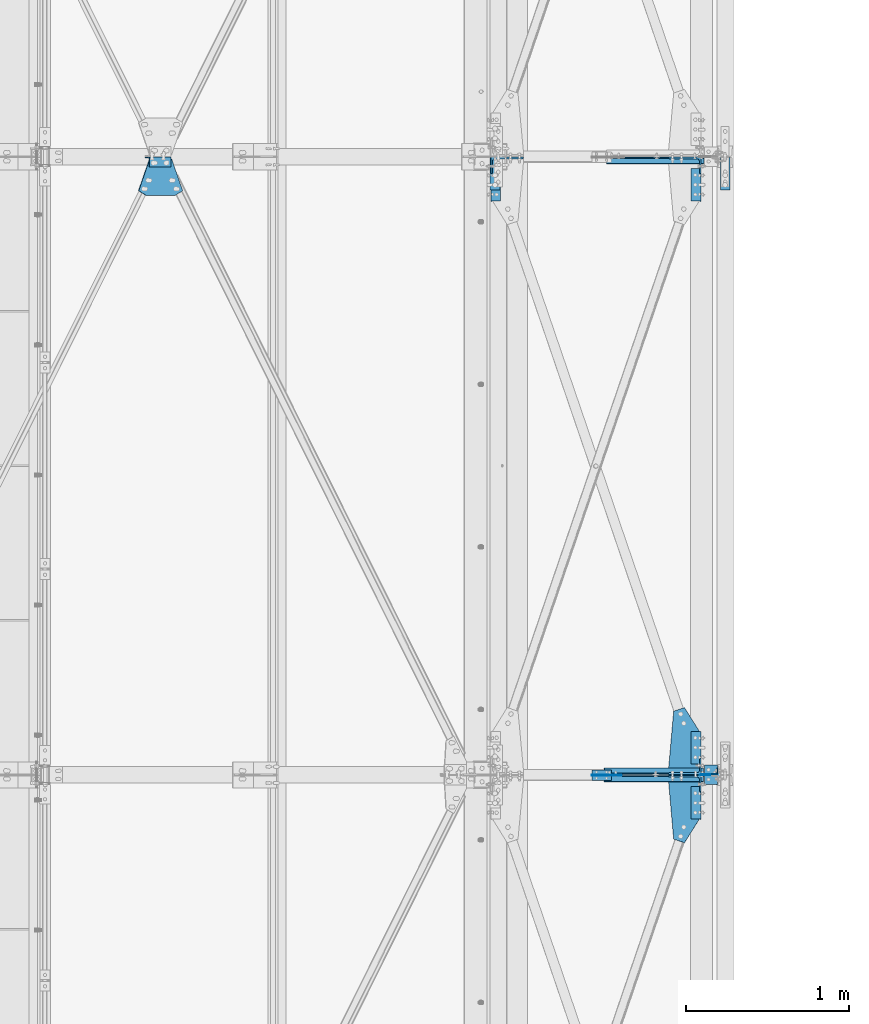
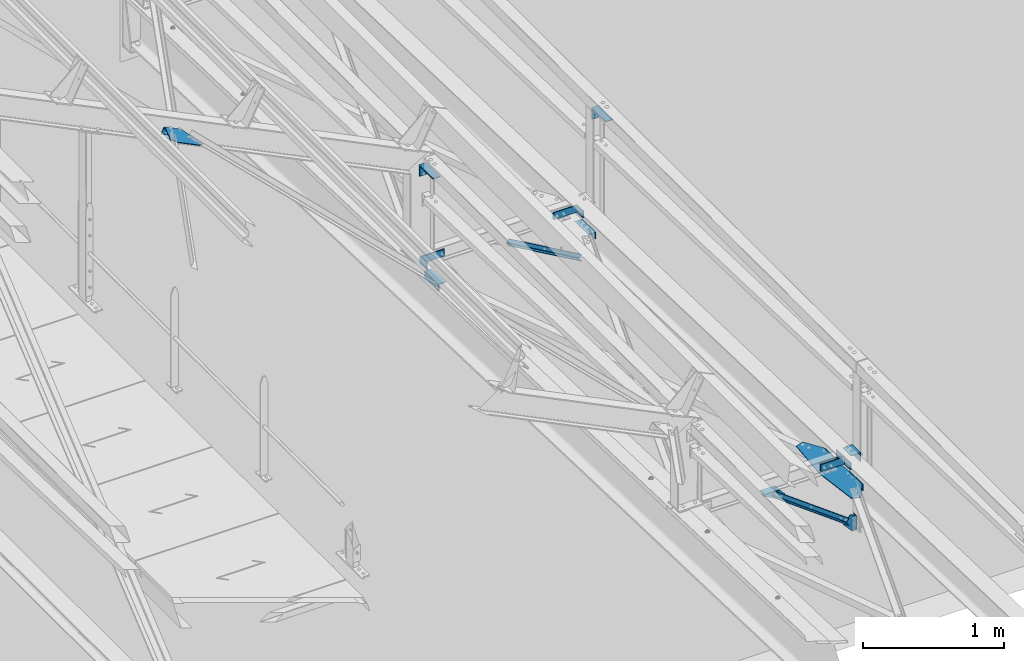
# One storey, part 110 of 362: 13 beams, 8 members, 20 elements without a shape of their own.
"""IFC2X3 building model written with IfcOpenShell, lengths in millimetres."""

import ifcopenshell
import ifcopenshell.guid

model = None  # the IFC model being written
_history = None  # IfcOwnerHistory: only IFC2X3 demands one
_inside = {}  # id of a spatial element -> (the spatial element, [elements in it])
_under = {}  # id of a project, library or spatial element -> (it, [spatial elements below it])
_declared = {}  # id of a project -> (the project, [libraries it declares])
_typed = {}  # id of a type object -> (the type object, [elements of that type])
_made_of = {}  # id of a material, layer set ... -> (it, [elements and type objects made of it])


def new_model(schema):
    """Start an empty IFC model of exactly this schema.

    Asked for "IFC4X3", IfcOpenShell would pick the latest addendum, in which some entities
    have other attributes; the version numbers below select the first issue.
    IFC2X3 requires an IfcOwnerHistory on every rooted entity: one is made here for all.
    """
    global model, _history
    if schema == "IFC4X3":
        model = ifcopenshell.file(schema_version=(4, 3, 0, 0))
    else:
        model = ifcopenshell.file(schema=schema)
    _inside.clear()
    _under.clear()
    _declared.clear()
    _typed.clear()
    _made_of.clear()
    _history = None
    if model.schema == "IFC2X3":
        org = make("IfcOrganization", Name="unknown")
        user = make(
            "IfcPersonAndOrganization",
            ThePerson=make("IfcPerson", FamilyName="unknown"),
            TheOrganization=org,
        )
        app = make(
            "IfcApplication",
            ApplicationDeveloper=org,
            Version="unknown",
            ApplicationFullName="unknown",
            ApplicationIdentifier="unknown",
        )
        _history = make(
            "IfcOwnerHistory",
            OwningUser=user,
            OwningApplication=app,
            ChangeAction="ADDED",
            CreationDate=0,
        )
    return model


def make(cls, **values):
    """One entity of the class cls with the attributes given. An attribute that is None is left unset."""
    return model.create_entity(
        cls, **{name: value for name, value in values.items() if value is not None}
    )


def rooted(cls, **values):
    """An entity with a GlobalId (a new one), such as an element, a storey or a relation."""
    return make(cls, GlobalId=ifcopenshell.guid.new(), OwnerHistory=_history, **values)


def si_unit(unit_type, name, prefix=None):
    """IfcSIUnit, for example si_unit("LENGTHUNIT", "METRE", prefix="MILLI")."""
    return make("IfcSIUnit", UnitType=unit_type, Prefix=prefix, Name=name)


def assignment(units):
    """IfcUnitAssignment: the units of a project."""
    return None if units is None else make("IfcUnitAssignment", Units=units)


def point(xyz):
    """IfcCartesianPoint."""
    return None if xyz is None else make("IfcCartesianPoint", Coordinates=xyz)


def direction(xyz):
    """IfcDirection."""
    return None if xyz is None else make("IfcDirection", DirectionRatios=xyz)


def frame(location, z_axis=None, x_axis=None):
    """IfcAxis2Placement3D, a coordinate frame: its origin and axes. An axis left out is left unset."""
    return make(
        "IfcAxis2Placement3D",
        Location=point(location),
        Axis=direction(z_axis),
        RefDirection=direction(x_axis),
    )


def frame_2d(location, x_axis=None):
    """IfcAxis2Placement2D, a coordinate frame in the plane: its origin and x axis."""
    return make(
        "IfcAxis2Placement2D", Location=point(location), RefDirection=direction(x_axis)
    )


def origin_with_axes():
    """The frame at (0, 0, 0) with the z axis (0, 0, 1) and the x axis (1, 0, 0) written out."""
    return frame((0.0, 0.0, 0.0), z_axis=(0.0, 0.0, 1.0), x_axis=(1.0, 0.0, 0.0))


def origin_2d_with_axis():
    """The frame at (0, 0) in the plane with the x axis (1, 0) written out."""
    return frame_2d((0.0, 0.0), x_axis=(1.0, 0.0))


def place(relative_to, where):
    """IfcLocalPlacement: puts the frame where relative to a parent placement (None: the world)."""
    return make(
        "IfcLocalPlacement", PlacementRelTo=relative_to, RelativePlacement=where
    )


def context(
    kind, dimensions, precision=None, world=None, true_north=None, identifier=None
):
    """IfcGeometricRepresentationContext, for example the 3D "Model" context."""
    return make(
        "IfcGeometricRepresentationContext",
        ContextIdentifier=identifier,
        ContextType=kind,
        CoordinateSpaceDimension=dimensions,
        Precision=precision,
        WorldCoordinateSystem=world,
        TrueNorth=true_north,
    )


def subcontext(parent, identifier, kind, view, scale=None):
    """IfcGeometricRepresentationSubContext, for example "Body" below "Model"."""
    return make(
        "IfcGeometricRepresentationSubContext",
        ContextIdentifier=identifier,
        ContextType=kind,
        ParentContext=parent,
        TargetScale=scale,
        TargetView=view,
    )


def project(units=None, contexts=None):
    """IfcProject with its units and contexts."""
    return rooted(
        "IfcProject",
        Name="project",
        RepresentationContexts=contexts,
        UnitsInContext=assignment(units),
    )


def spatial(cls, under=None, at=None, **own):
    """A site, building, storey or space (cls), placed at a placement, below another one or the project."""
    s = rooted(cls, ObjectPlacement=at, **own)
    if under is not None:
        _under.setdefault(under.id(), (under, []))[1].append(s)
    return s


def polyline(points):
    """IfcPolyline through the points."""
    return make("IfcPolyline", Points=[point(p) for p in points])


def profile(cls, at=None, kind="AREA", **sizes):
    """A parametric profile (cls). Its sizes go by their IFC names, for example OverallWidth=200.0."""
    return make(cls, ProfileType=kind, Position=at, **sizes)


def rectangle(**sizes):
    """IfcRectangleProfileDef."""
    return profile("IfcRectangleProfileDef", **sizes)


def l_section(**sizes):
    """IfcLShapeProfileDef."""
    return profile("IfcLShapeProfileDef", **sizes)


def outline(outer, holes=None, kind="AREA"):
    """IfcArbitraryClosedProfileDef: a profile drawn as a closed curve; with holes, ...WithVoids."""
    if holes is None:
        return make("IfcArbitraryClosedProfileDef", ProfileType=kind, OuterCurve=outer)
    return make(
        "IfcArbitraryProfileDefWithVoids",
        ProfileType=kind,
        OuterCurve=outer,
        InnerCurves=holes,
    )


def extrude(swept, where, along, depth):
    """IfcExtrudedAreaSolid: the profile swept, set in the frame where, extruded along a direction by depth."""
    return make(
        "IfcExtrudedAreaSolid",
        SweptArea=swept,
        Position=where,
        ExtrudedDirection=direction(along),
        Depth=depth,
    )


def clip(a, b, op="DIFFERENCE"):
    """IfcBooleanClippingResult: the solid a cut by the half space b."""
    return make(
        "IfcBooleanClippingResult", Operator=op, FirstOperand=a, SecondOperand=b
    )


def halfspace(plane, agree):
    """IfcHalfSpaceSolid: all space on one side of the plane z = 0 of the frame plane."""
    return make(
        "IfcHalfSpaceSolid",
        BaseSurface=make("IfcPlane", Position=plane),
        AgreementFlag=agree,
    )


def shape(context_of_items, identifier, shape_type, items):
    """IfcShapeRepresentation: the items that make up one representation, for example the "Body"."""
    return make(
        "IfcShapeRepresentation",
        ContextOfItems=context_of_items,
        RepresentationIdentifier=identifier,
        RepresentationType=shape_type,
        Items=items,
    )


def material(Name=None, Category=None):
    """IfcMaterial."""
    return make("IfcMaterial", Name=Name, Category=Category)


def made_of(thing, what):
    """Note that an element or type object is made of a material, layer set ...; save() writes the relation."""
    if what is not None:
        _made_of.setdefault(what.id(), (what, []))[1].append(thing)
    return thing


def type_object(cls, material=None, **own):
    """A type object (cls), such as IfcWallType, which elements share."""
    return made_of(rooted(cls, **own), material)


def element(
    cls,
    number,
    at=None,
    inside=None,
    cuts=None,
    type_object=None,
    material=None,
    context=None,
    identifier="Body",
    shape_type=None,
    held_by="IfcProductDefinitionShape",
    body=None,
    shapes=None,
    **own,
):
    """One element of the class cls, such as IfcWall. Its Tag is "e" and its number.

    at: its placement. inside: the storey or other place that contains it. cuts: it is an
    opening in that element (IfcRelVoidsElement). A single representation is given by context,
    identifier, shape_type and body (its items); several are given by shapes. held_by: the class
    of the entity that holds the representations. save() writes the other relations.
    """
    e = rooted(cls, Tag="e%d" % number, ObjectPlacement=at, **own)
    if body is not None:
        shapes = [shape(context, identifier, shape_type, body)]
    if shapes is not None:
        e.Representation = make(held_by, Representations=shapes)
    if inside is not None:
        _inside.setdefault(inside.id(), (inside, []))[1].append(e)
    if cuts is not None:
        rooted(
            "IfcRelVoidsElement", RelatingBuildingElement=cuts, RelatedOpeningElement=e
        )
    if type_object is not None:
        _typed.setdefault(type_object.id(), (type_object, []))[1].append(e)
    return made_of(e, material)


def aggregate(whole, parts):
    """IfcRelAggregates: a whole, such as a stair, and the parts it consists of."""
    return rooted("IfcRelAggregates", RelatingObject=whole, RelatedObjects=parts)


def save(model, path):
    """Write the relations noted so far, then the file.

    IfcRelAggregates (storeys below a building ...), IfcRelContainedInSpatialStructure (elements
    in a storey), IfcRelDefinesByType, IfcRelAssociatesMaterial and IfcRelDeclares: one each for
    every whole, place, type object, material and project.
    """
    for whole, parts in _under.values():
        aggregate(whole, parts)
    for where, things in _inside.values():
        rooted(
            "IfcRelContainedInSpatialStructure",
            RelatedElements=things,
            RelatingStructure=where,
        )
    for kind, things in _typed.values():
        rooted("IfcRelDefinesByType", RelatedObjects=things, RelatingType=kind)
    for what, things in _made_of.values():
        rooted("IfcRelAssociatesMaterial", RelatedObjects=things, RelatingMaterial=what)
    for by, libraries in _declared.values():
        rooted("IfcRelDeclares", RelatingContext=by, RelatedDefinitions=libraries)
    model.write(path)


model = new_model("IFC2X3")

# Units and contexts
model_context = context("Model", 3, precision=1e-05, world=origin_with_axes())
body_context = subcontext(model_context, "Body", "Model", "MODEL_VIEW")
ifc_project = project(units=[si_unit("LENGTHUNIT", "METRE", prefix="MILLI"), si_unit("AREAUNIT", "SQUARE_METRE"), si_unit("VOLUMEUNIT", "CUBIC_METRE"), si_unit("MASSUNIT", "GRAM", prefix="KILO"), si_unit("TIMEUNIT", "SECOND"), si_unit("PLANEANGLEUNIT", "RADIAN"), si_unit("SOLIDANGLEUNIT", "STERADIAN"), si_unit("THERMODYNAMICTEMPERATUREUNIT", "DEGREE_CELSIUS"), si_unit("LUMINOUSINTENSITYUNIT", "LUMEN")], contexts=[model_context])

# Site, building, storey
site_placement = place(None, origin_with_axes())
site = spatial("IfcSite", under=ifc_project, at=site_placement, Name="Undefined", CompositionType="ELEMENT")
building_placement = place(site_placement, origin_with_axes())
building = spatial("IfcBuilding", under=site, at=building_placement, Name="Undefined", CompositionType="ELEMENT")
storey_placement = place(building_placement, origin_with_axes())
storey = spatial("IfcBuildingStorey", under=building, at=storey_placement, Name="Undefined", CompositionType="ELEMENT", Elevation=0.0)

# Assembly, beam
assembly_1_placement = place(storey_placement, origin_with_axes())
assembly_1 = element("IfcElementAssembly", 1, at=assembly_1_placement, inside=storey, AssemblyPlace="NOTDEFINED", PredefinedType="NOTDEFINED")
ifc_material = material(Name="Undefined/S235-E24")
beam_type_1 = type_object("IfcBeamType", Name="L60*6", PredefinedType="NOTDEFINED")
beam_1_placement = place(assembly_1_placement, frame((39596.4999999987, 7327.11779121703, 7663.65903284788), z_axis=(-1.05403257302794e-09, -0.0314112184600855, -0.999506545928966), x_axis=(3.14103090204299e-11, 0.999506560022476, -0.0314107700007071)))
beam_1 = element("IfcBeam", 2, at=beam_1_placement, type_object=beam_type_1, material=ifc_material, Name="ATTACHE", ObjectType="L60*6", context=body_context, shape_type="SweptSolid", body=[
    extrude(l_section(Depth=60.0, Width=60.0, Thickness=6.0, FilletRadius=8.0, EdgeRadius=4.0, at=origin_2d_with_axis()), frame((200.0, 0.0, 0.0), z_axis=(-1.0, 0.0, 0.0), x_axis=(0.0, -1.0, 0.0)), (0.0, 0.0, 1.0), 200.0),
])
aggregate(assembly_1, [beam_1])

assembly_2_placement = place(storey_placement, origin_with_axes())
assembly_2 = element("IfcElementAssembly", 3, at=assembly_2_placement, inside=storey, AssemblyPlace="NOTDEFINED", PredefinedType="NOTDEFINED")
beam_2_placement = place(assembly_2_placement, frame((39596.4999999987, 7666.95002289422, 7652.97941150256), z_axis=(-1.05403257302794e-09, -0.0314112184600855, -0.999506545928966), x_axis=(3.14103090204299e-11, 0.999506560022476, -0.0314107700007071)))
beam_2 = element("IfcBeam", 4, at=beam_2_placement, type_object=beam_type_1, material=ifc_material, Name="ATTACHE", ObjectType="L60*6", context=body_context, shape_type="SweptSolid", body=[
    extrude(l_section(Depth=60.0, Width=60.0, Thickness=6.0, FilletRadius=8.0, EdgeRadius=4.0, at=origin_2d_with_axis()), frame((200.0, 0.0, 0.0), z_axis=(-1.0, 0.0, 0.0), x_axis=(0.0, -1.0, 0.0)), (0.0, 0.0, 1.0), 200.0),
])
aggregate(assembly_2, [beam_2])

assembly_3_placement = place(storey_placement, origin_with_axes())
assembly_3 = element("IfcElementAssembly", 5, at=assembly_3_placement, inside=storey, AssemblyPlace="NOTDEFINED", PredefinedType="NOTDEFINED")
beam_3_placement = place(assembly_3_placement, frame((39596.4999999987, 11127.1177919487, 7544.23922211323), z_axis=(-1.05403257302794e-09, -0.0314112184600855, -0.999506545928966), x_axis=(3.14103090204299e-11, 0.999506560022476, -0.0314107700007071)))
beam_3 = element("IfcBeam", 6, at=beam_3_placement, type_object=beam_type_1, material=ifc_material, Name="ATTACHE", ObjectType="L60*6", context=body_context, shape_type="SweptSolid", body=[
    extrude(l_section(Depth=60.0, Width=60.0, Thickness=6.0, FilletRadius=8.0, EdgeRadius=4.0, at=origin_2d_with_axis()), frame((200.0, 0.0, 0.0), z_axis=(-1.0, 0.0, 0.0), x_axis=(0.0, -1.0, 0.0)), (0.0, 0.0, 1.0), 200.0),
])
aggregate(assembly_3, [beam_3])

assembly_4_placement = place(storey_placement, origin_with_axes())
assembly_4 = element("IfcElementAssembly", 7, at=assembly_4_placement, inside=storey, AssemblyPlace="NOTDEFINED", PredefinedType="NOTDEFINED")
beam_4_placement = place(assembly_4_placement, frame((38365.0000000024, 11327.0191028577, 7537.95703356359), z_axis=(-1.05403257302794e-09, -0.0314112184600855, -0.999506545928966), x_axis=(0.0, -0.999506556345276, 0.031410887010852)))
beam_4 = element("IfcBeam", 8, at=beam_4_placement, type_object=beam_type_1, material=ifc_material, Name="ATTACHE", ObjectType="L60*6", context=body_context, shape_type="SweptSolid", body=[
    extrude(l_section(Depth=60.0, Width=60.0, Thickness=6.0, FilletRadius=8.0, EdgeRadius=4.0, at=origin_2d_with_axis()), frame((200.0, 0.0, 0.0), z_axis=(-1.0, 0.0, 0.0), x_axis=(0.0, -1.0, 0.0)), (0.0, 0.0, 1.0), 200.0),
])
aggregate(assembly_4, [beam_4])

assembly_5_placement = place(storey_placement, origin_with_axes())
assembly_5 = element("IfcElementAssembly", 9, at=assembly_5_placement, inside=storey, AssemblyPlace="NOTDEFINED", PredefinedType="NOTDEFINED")
beam_type_2 = type_object("IfcBeamType", Name="L80*8", PredefinedType="NOTDEFINED")
beam_5_placement = place(assembly_5_placement, frame((39689.0, 7660.12744744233, 7759.04601471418), z_axis=(-1.0, 0.0, 0.0), x_axis=(0.0, -0.999506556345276, 0.031410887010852)))
beam_5 = element("IfcBeam", 10, at=beam_5_placement, type_object=beam_type_2, material=ifc_material, Name="ATTACHE", ObjectType="L80*8", context=body_context, shape_type="SweptSolid", body=[
    extrude(l_section(Depth=80.0, Width=80.0, Thickness=8.0, FilletRadius=10.0, EdgeRadius=5.0, at=origin_2d_with_axis()), frame((120.0, 0.0, 0.0), z_axis=(-1.0, 0.0, 0.0), x_axis=(0.0, -1.0, 0.0)), (0.0, 0.0, 1.0), 120.0),
])
aggregate(assembly_5, [beam_5])

assembly_6_placement = place(storey_placement, origin_with_axes())
assembly_6 = element("IfcElementAssembly", 11, at=assembly_6_placement, inside=storey, AssemblyPlace="NOTDEFINED", PredefinedType="NOTDEFINED")
beam_type_3 = type_object("IfcBeamType", Name="L40*4", PredefinedType="NOTDEFINED")
beam_6_placement = place(assembly_6_placement, frame((39709.0000003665, 7623.0, 7220.00000925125), z_axis=(-1.0, 0.0, 0.0), x_axis=(0.0, 0.0, -1.0)))
beam_6 = element("IfcBeam", 12, at=beam_6_placement, type_object=beam_type_3, material=ifc_material, Name="ATTACHE", ObjectType="L40*4", context=body_context, shape_type="SweptSolid", body=[
    extrude(l_section(Depth=40.0, Width=40.0, Thickness=4.0, FilletRadius=6.0, EdgeRadius=3.0, at=origin_2d_with_axis()), frame((120.0, 0.0, 0.0), z_axis=(-1.0, 0.0, 0.0), x_axis=(0.0, -1.0, 0.0)), (0.0, 0.0, 1.0), 120.0),
])
aggregate(assembly_6, [beam_6])

# Assembly, member
assembly_7_placement = place(storey_placement, origin_with_axes())
assembly_7 = element("IfcElementAssembly", 13, at=assembly_7_placement, inside=storey, AssemblyPlace="NOTDEFINED", PredefinedType="NOTDEFINED")
member_type_1 = type_object("IfcMemberType", Name="L60*6", PredefinedType="NOTDEFINED")
member_1_placement = place(assembly_7_placement, frame((36221.8078542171, 11367.0004540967, 9484.14527223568), z_axis=(0.0, -1.0, 0.0), x_axis=(0.897398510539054, 0.0, -0.44122093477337)))
member_1 = element("IfcMember", 14, at=member_1_placement, type_object=member_type_1, material=ifc_material, Name="ATTACHE", ObjectType="L60*6", context=body_context, shape_type="SweptSolid", body=[
    extrude(l_section(Depth=60.0, Width=60.0, Thickness=6.0, FilletRadius=8.0, EdgeRadius=4.0, at=origin_2d_with_axis()), frame((150.0, 0.0, 0.0), z_axis=(-1.0, 0.0, 0.0), x_axis=(0.0, -1.0, 0.0)), (0.0, 0.0, 1.0), 150.0),
])
aggregate(assembly_7, [member_1])

assembly_8_placement = place(storey_placement, origin_with_axes())
assembly_8 = element("IfcElementAssembly", 15, at=assembly_8_placement, inside=storey, AssemblyPlace="NOTDEFINED", PredefinedType="NOTDEFINED")
member_type_2 = type_object("IfcMemberType", Name="L200*100*10", PredefinedType="NOTDEFINED")
member_2_placement = place(assembly_8_placement, frame((39526.4999999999, 11345.7696869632, 7593.39548474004), z_axis=(-1.0, 0.0, 0.0), x_axis=(7.58071938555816e-11, 0.0314107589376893, 0.999506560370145)))
member_2 = element("IfcMember", 16, at=member_2_placement, type_object=member_type_2, material=ifc_material, Name="ATTACHE", ObjectType="L200*100*10", context=body_context, shape_type="SweptSolid", body=[
    extrude(l_section(Depth=200.0, Width=100.0, Thickness=10.0, FilletRadius=15.0, EdgeRadius=7.5, at=origin_2d_with_axis()), frame((60.0, 0.0, 0.0), z_axis=(-1.0, 0.0, 0.0), x_axis=(0.0, -1.0, 0.0)), (0.0, 0.0, 1.0), 60.0),
])
aggregate(assembly_8, [member_2])

assembly_9_placement = place(storey_placement, origin_with_axes())
assembly_9 = element("IfcElementAssembly", 17, at=assembly_9_placement, inside=storey, AssemblyPlace="NOTDEFINED", PredefinedType="NOTDEFINED")
member_3_placement = place(assembly_9_placement, frame((39526.5, 7653.60293699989, 7769.45603246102), z_axis=(-1.0, 0.0, 0.0), x_axis=(-1.05403257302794e-09, -0.0314112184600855, -0.999506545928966)))
member_3 = element("IfcMember", 18, at=member_3_placement, type_object=member_type_2, material=ifc_material, Name="ATTACHE", ObjectType="L200*100*10", context=body_context, shape_type="SweptSolid", body=[
    extrude(l_section(Depth=200.0, Width=100.0, Thickness=10.0, FilletRadius=15.0, EdgeRadius=7.5, at=origin_2d_with_axis()), frame((60.0, 0.0, 0.0), z_axis=(-1.0, 0.0, 0.0), x_axis=(0.0, -1.0, 0.0)), (0.0, 0.0, 1.0), 60.0),
])
aggregate(assembly_9, [member_3])

assembly_10_placement = place(storey_placement, origin_with_axes())
assembly_10 = element("IfcElementAssembly", 19, at=assembly_10_placement, inside=storey, AssemblyPlace="NOTDEFINED", PredefinedType="NOTDEFINED")
member_4_placement = place(assembly_10_placement, frame((39526.4999999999, 7545.76968615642, 7712.81529547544), z_axis=(-1.0, 0.0, 0.0), x_axis=(7.58071938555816e-11, 0.0314107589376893, 0.999506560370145)))
member_4 = element("IfcMember", 20, at=member_4_placement, type_object=member_type_2, material=ifc_material, Name="ATTACHE", ObjectType="L200*100*10", context=body_context, shape_type="SweptSolid", body=[
    extrude(l_section(Depth=200.0, Width=100.0, Thickness=10.0, FilletRadius=15.0, EdgeRadius=7.5, at=origin_2d_with_axis()), frame((60.0, 0.0, 0.0), z_axis=(-1.0, 0.0, 0.0), x_axis=(0.0, -1.0, 0.0)), (0.0, 0.0, 1.0), 60.0),
])
aggregate(assembly_10, [member_4])

assembly_11_placement = place(storey_placement, origin_with_axes())
assembly_11 = element("IfcElementAssembly", 21, at=assembly_11_placement, inside=storey, AssemblyPlace="NOTDEFINED", PredefinedType="NOTDEFINED")
member_5_placement = place(assembly_11_placement, frame((38435.0000000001, 11347.6543832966, 7653.36587676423), z_axis=(1.0, 0.0, 0.0), x_axis=(-1.05403257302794e-09, -0.0314112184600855, -0.999506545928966)))
member_5 = element("IfcMember", 22, at=member_5_placement, type_object=member_type_2, material=ifc_material, Name="ATTACHE", ObjectType="L200*100*10", context=body_context, shape_type="SweptSolid", body=[
    extrude(l_section(Depth=200.0, Width=100.0, Thickness=10.0, FilletRadius=15.0, EdgeRadius=7.5, at=origin_2d_with_axis()), frame((60.0, 0.0, 0.0), z_axis=(-1.0, 0.0, 0.0), x_axis=(0.0, -1.0, 0.0)), (0.0, 0.0, 1.0), 60.0),
])
aggregate(assembly_11, [member_5])

# Assembly, beam
assembly_12_placement = place(storey_placement, origin_with_axes())
assembly_12 = element("IfcElementAssembly", 23, at=assembly_12_placement, inside=storey, AssemblyPlace="NOTDEFINED", PredefinedType="NOTDEFINED")
beam_type_4 = type_object("IfcBeamType", Name="L200*100*10", PredefinedType="NOTDEFINED")
beam_7_placement = place(assembly_12_placement, frame((39745.0, 11296.5, 8400.0), z_axis=(0.0, -1.0, 0.0), x_axis=(1.0, 0.0, 0.0)))
beam_7 = element("IfcBeam", 24, at=beam_7_placement, type_object=beam_type_4, material=ifc_material, Name="ATTACHE", ObjectType="L200*100*10", context=body_context, shape_type="SweptSolid", body=[
    extrude(l_section(Depth=200.0, Width=100.0, Thickness=10.0, FilletRadius=15.0, EdgeRadius=7.5, at=origin_2d_with_axis()), frame((60.0, 0.0, 0.0), z_axis=(-1.0, 0.0, 0.0), x_axis=(0.0, -1.0, 0.0)), (0.0, 0.0, 1.0), 60.0),
])
aggregate(assembly_12, [beam_7])

assembly_13_placement = place(storey_placement, origin_with_axes())
assembly_13 = element("IfcElementAssembly", 25, at=assembly_13_placement, inside=storey, AssemblyPlace="NOTDEFINED", PredefinedType="NOTDEFINED")
beam_8_placement = place(assembly_13_placement, frame((38330.0, 11296.5, 8400.0), z_axis=(0.0, -1.0, 0.0), x_axis=(1.0, 0.0, 0.0)))
beam_8 = element("IfcBeam", 26, at=beam_8_placement, type_object=beam_type_4, material=ifc_material, Name="ATTACHE", ObjectType="L200*100*10", context=body_context, shape_type="SweptSolid", body=[
    extrude(l_section(Depth=200.0, Width=100.0, Thickness=10.0, FilletRadius=15.0, EdgeRadius=7.5, at=origin_2d_with_axis()), frame((60.0, 0.0, 0.0), z_axis=(-1.0, 0.0, 0.0), x_axis=(0.0, -1.0, 0.0)), (0.0, 0.0, 1.0), 60.0),
])
aggregate(assembly_13, [beam_8])

assembly_14_placement = place(storey_placement, origin_with_axes())
assembly_14 = element("IfcElementAssembly", 27, at=assembly_14_placement, inside=storey, AssemblyPlace="NOTDEFINED", PredefinedType="NOTDEFINED")
beam_type_5 = type_object("IfcBeamType", Name="TOLE6*281", PredefinedType="NOTDEFINED")
beam_9_placement = place(assembly_14_placement, frame((36370.977930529, 11387.0005570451, 9447.57627824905), z_axis=(0.44122107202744, 0.0, 0.89739844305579), x_axis=(-0.897398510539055, -1.29999898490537e-08, 0.441220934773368)))
beam_9 = element("IfcBeam", 28, at=beam_9_placement, type_object=beam_type_5, material=ifc_material, Name="GOUSSET", ObjectType="TOLE6*281", context=body_context, shape_type="SweptSolid", body=[
    extrude(outline(polyline([(0.0, 0.0), (149.999999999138, -4.0381564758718e-10), (225.299438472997, 196.258819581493), (172.823120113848, 225.348953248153), (-22.830436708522, 225.348953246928), (-75.3067550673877, 196.258804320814), (0.0, 0.0)])), frame((0.0, 0.0, -3.0), z_axis=(0.0, 0.0, 1.0), x_axis=(1.0, 0.0, 0.0)), (0.0, 0.0, 1.0), 6.0),
])
aggregate(assembly_14, [beam_9])

# Assembly, beams
assembly_15_placement = place(storey_placement, origin_with_axes())
assembly_15 = element("IfcElementAssembly", 29, at=assembly_15_placement, inside=storey, AssemblyPlace="NOTDEFINED", PredefinedType="NOTDEFINED")
beam_type_6 = type_object("IfcBeamType", Name="PL6*120", PredefinedType="NOTDEFINED")
beam_10_placement = place(assembly_15_placement, frame((39015.0, 7630.00533210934, 7687.15667204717), z_axis=(1.0, 0.0, 0.0), x_axis=(0.0, -0.999506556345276, 0.031410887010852)))
beam_10 = element("IfcBeam", 30, at=beam_10_placement, type_object=beam_type_6, material=ifc_material, Name="PLATINE", ObjectType="PL6*120", context=body_context, shape_type="SweptSolid", body=[
    extrude(rectangle(XDim=6.0, YDim=120.0, at=origin_2d_with_axis()), frame((63.999999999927, 0.0, 0.0), z_axis=(-1.0, 0.0, 0.0), x_axis=(0.0, -1.0, 0.0)), (0.0, 0.0, 1.0), 64.0),
])
beam_type_7 = type_object("IfcBeamType", Name="TOLE6*109", PredefinedType="NOTDEFINED")
beam_11_placement = place(assembly_15_placement, frame((38955.0, 7598.12, 7685.00386774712), z_axis=(0.0, -1.0, 0.0), x_axis=(0.0, 0.0, -1.0)))
beam_11 = element("IfcBeam", 31, at=beam_11_placement, type_object=beam_type_7, material=ifc_material, Name="GOUSSET", ObjectType="TOLE6*109", context=body_context, shape_type="SweptSolid", body=[
    extrude(outline(polyline([(0.0, 0.0), (24.9957141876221, 0.0), (108.967063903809, 153.952651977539), (68.7210540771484, 183.621810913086), (-2.37123549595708e-06, 120.0), (0.0, 0.0)])), frame((0.0, 0.0, -3.0), z_axis=(0.0, 0.0, 1.0), x_axis=(1.0, 0.0, 0.0)), (0.0, 0.0, 1.0), 6.0),
])
aggregate(assembly_15, [beam_11, beam_10])

# Assembly, beam
assembly_16_placement = place(storey_placement, origin_with_axes())
assembly_16 = element("IfcElementAssembly", 32, at=assembly_16_placement, inside=storey, AssemblyPlace="NOTDEFINED", PredefinedType="NOTDEFINED")
beam_type_8 = type_object("IfcBeamType", Name="TOLE6*171", PredefinedType="NOTDEFINED")
beam_12_placement = place(assembly_16_placement, frame((39557.6581373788, 7600.0, 7245.2533864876), z_axis=(0.0, -1.0, 0.0), x_axis=(0.67069467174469, 0.0, -0.741733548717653)))
beam_12 = element("IfcBeam", 33, at=beam_12_placement, type_object=beam_type_8, material=ifc_material, Name="GOUSSET", ObjectType="TOLE6*171", context=body_context, shape_type="Clipping", body=[
    clip(extrude(outline(polyline([(0.0, 0.0), (195.829589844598, 3.78349795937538e-10), (222.657379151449, 29.6693420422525), (133.649353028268, 110.152702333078), (-9.95287132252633, 48.9993896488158), (0.0, 0.0)])), frame((0.0, 0.0, -3.0), z_axis=(0.0, 0.0, 1.0), x_axis=(1.0, 0.0, 0.0)), (0.0, 0.0, 1.0), 6.0), halfspace(frame((82.4508639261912, 70.6515813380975, 9.09494701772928e-13), z_axis=(-0.994710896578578, -0.1027143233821, 0.0), x_axis=(0.0, 0.0, 1.0)), False)),
])
aggregate(assembly_16, [beam_12])

assembly_17_placement = place(storey_placement, origin_with_axes())
assembly_17 = element("IfcElementAssembly", 34, at=assembly_17_placement, inside=storey, AssemblyPlace="NOTDEFINED", PredefinedType="NOTDEFINED")
beam_type_9 = type_object("IfcBeamType", Name="TOLE6*190", PredefinedType="NOTDEFINED")
beam_13_placement = place(assembly_17_placement, frame((39458.4935659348, 7991.22326197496, 7675.80496792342), z_axis=(7.58071938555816e-11, 0.0314107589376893, 0.999506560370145), x_axis=(-0.0881827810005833, -0.995612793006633, 0.0312883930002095)))
beam_13 = element("IfcBeam", 35, at=beam_13_placement, type_object=beam_type_9, material=ifc_material, Name="GOUSSET", ObjectType="TOLE6*190", context=body_context, shape_type="SweptSolid", body=[
    extrude(outline(polyline([(0.0, 0.0), (362.809631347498, 9.74978320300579e-10), (426.560333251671, 5.64369726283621), (783.729370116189, 69.3817214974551), (800.448486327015, 137.355758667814), (646.878417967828, 215.891021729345), (108.982093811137, 168.272323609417), (-28.4006748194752, 63.9796981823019), (0.0, 0.0)])), frame((0.0, 0.0, -3.0), z_axis=(0.0, 0.0, 1.0), x_axis=(1.0, 0.0, 0.0)), (0.0, 0.0, 1.0), 6.0),
])
aggregate(assembly_17, [beam_13])

# Assembly, member
assembly_18_placement = place(storey_placement, origin_with_axes())
assembly_18 = element("IfcElementAssembly", 36, at=assembly_18_placement, inside=storey, AssemblyPlace="NOTDEFINED", PredefinedType="NOTDEFINED")
member_type_3 = type_object("IfcMemberType", Name="L40*4", PredefinedType="NOTDEFINED")
member_6_placement = place(assembly_18_placement, frame((38994.0037125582, 11377.000384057, 7569.94708237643), z_axis=(0.49814372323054, 0.0, 0.867094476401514), x_axis=(0.867094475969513, 0.0, -0.498143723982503)))
member_6 = element("IfcMember", 37, at=member_6_placement, type_object=member_type_3, material=ifc_material, Name="STABILITE", ObjectType="L40*4", context=body_context, shape_type="Clipping", body=[
    clip(clip(extrude(l_section(Depth=40.0, Width=40.0, Thickness=4.0, FilletRadius=6.0, EdgeRadius=3.0, at=origin_2d_with_axis()), frame((793.784756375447, 0.0, 0.0), z_axis=(-1.0, 0.0, 0.0), x_axis=(0.0, -1.0, 0.0)), (0.0, 0.0, 1.0), 758.69), halfspace(frame((758.884192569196, 22.9996159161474, 20.0), z_axis=(1.0, 0.0, 0.0), x_axis=(0.0, 1.0, 0.0)), False)), halfspace(frame((70.0000000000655, 22.9996159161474, 20.0), z_axis=(1.0, 0.0, 0.0), x_axis=(0.0, 1.0, 0.0)), True)),
])
aggregate(assembly_18, [member_6])

assembly_19_placement = place(storey_placement, origin_with_axes())
assembly_19 = element("IfcElementAssembly", 38, at=assembly_19_placement, inside=storey, AssemblyPlace="NOTDEFINED", PredefinedType="NOTDEFINED")
member_7_placement = place(assembly_19_placement, frame((38993.8132338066, 7577.00038405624, 7689.49126830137), z_axis=(0.593383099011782, 0.0, 0.804920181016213), x_axis=(0.804920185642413, 0.0, -0.593383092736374)))
member_7 = element("IfcMember", 39, at=member_7_placement, type_object=member_type_3, material=ifc_material, Name="STABILITE", ObjectType="L40*4", context=body_context, shape_type="Clipping", body=[
    clip(clip(extrude(l_section(Depth=40.0, Width=40.0, Thickness=4.0, FilletRadius=6.0, EdgeRadius=3.0, at=origin_2d_with_axis()), frame((856.045576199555, 0.0, 0.0), z_axis=(-1.0, 0.0, 0.0), x_axis=(0.0, -1.0, 0.0)), (0.0, 0.0, 1.0), 834.64), halfspace(frame((817.453392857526, 22.9996159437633, 19.9999999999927), z_axis=(-1.0, 0.0, 0.0), x_axis=(0.0, -1.0, 0.0)), True)), halfspace(frame((60.0000000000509, 22.9996159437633, 20.0), z_axis=(-1.0, 0.0, 0.0), x_axis=(0.0, -1.0, 0.0)), False)),
])
aggregate(assembly_19, [member_7])

assembly_20_placement = place(storey_placement, origin_with_axes())
assembly_20 = element("IfcElementAssembly", 40, at=assembly_20_placement, inside=storey, AssemblyPlace="NOTDEFINED", PredefinedType="NOTDEFINED")
member_8_placement = place(assembly_20_placement, frame((39727.813233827, 7623.00038408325, 7148.39016895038), z_axis=(0.593383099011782, 0.0, 0.804920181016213), x_axis=(-0.804920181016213, 0.0, 0.593383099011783)))
member_8 = element("IfcMember", 41, at=member_8_placement, type_object=member_type_3, material=ifc_material, Name="STABILITE", ObjectType="L40*4", context=body_context, shape_type="Clipping", body=[
    clip(clip(extrude(l_section(Depth=40.0, Width=40.0, Thickness=4.0, FilletRadius=6.0, EdgeRadius=3.0, at=origin_2d_with_axis()), frame((890.483843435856, 0.0, 0.0), z_axis=(-1.0, 0.0, 0.0), x_axis=(0.0, -1.0, 0.0)), (0.0, 0.0, 1.0), 834.64), halfspace(frame((851.891660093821, 23.000384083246, 20.0000001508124), z_axis=(1.0, 0.0, 0.0), x_axis=(0.0, 1.0, 0.0)), False)), halfspace(frame((94.4382672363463, 23.000384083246, 20.0000001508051), z_axis=(1.0, 0.0, 0.0), x_axis=(0.0, 1.0, 0.0)), True)),
])
aggregate(assembly_20, [member_8])

save(model, "model.ifc")
